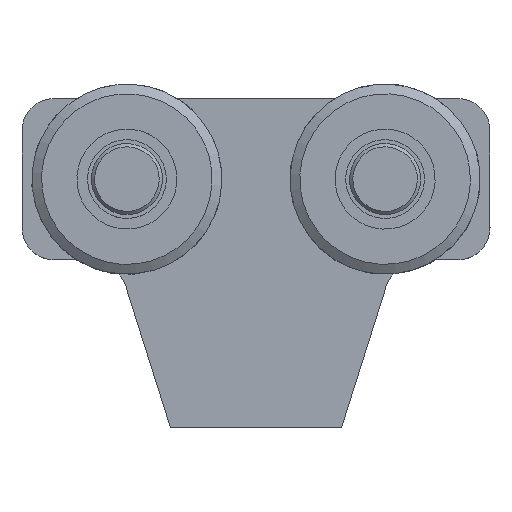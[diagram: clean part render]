
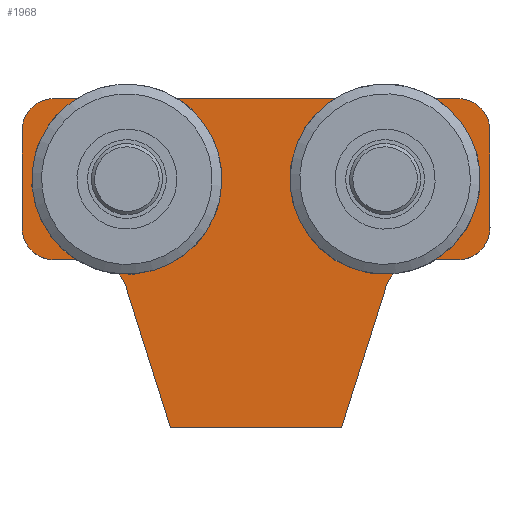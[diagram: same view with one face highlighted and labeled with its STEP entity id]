
A CAD part, top view. The second image highlights one B-rep face of the part: STEP entity #1968.
In plain terms, the highlighted planar face has unit normal (0, 0, 1).
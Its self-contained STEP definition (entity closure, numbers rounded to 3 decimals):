
#200=FACE_BOUND('',#528,.T.);
#201=FACE_BOUND('',#529,.T.);
#260=CIRCLE('',#2064,8.95);
#262=CIRCLE('',#2070,8.95);
#264=CIRCLE('',#2078,8.95);
#266=CIRCLE('',#2084,8.95);
#268=CIRCLE('',#2087,12.);
#270=CIRCLE('',#2091,10.);
#272=CIRCLE('',#2095,10.);
#274=CIRCLE('',#2099,10.);
#276=CIRCLE('',#2103,10.);
#278=CIRCLE('',#2107,12.);
#418=FACE_OUTER_BOUND('',#527,.T.);
#527=EDGE_LOOP('',(#1469,#1470,#1471,#1472,#1473,#1474,#1475,#1476,#1477,
#1478,#1479,#1480,#1481,#1482));
#528=EDGE_LOOP('',(#1483,#1484,#1485,#1486,#1487,#1488,#1489,#1490));
#529=EDGE_LOOP('',(#1491,#1492,#1493,#1494,#1495,#1496,#1497,#1498));
#666=LINE('',#2897,#778);
#671=LINE('',#2911,#783);
#674=LINE('',#2917,#786);
#677=LINE('',#2923,#789);
#681=LINE('',#2935,#793);
#684=LINE('',#2940,#796);
#686=LINE('',#2945,#798);
#690=LINE('',#2953,#802);
#693=LINE('',#2959,#805);
#697=LINE('',#2971,#809);
#700=LINE('',#2977,#812);
#703=LINE('',#2983,#815);
#708=LINE('',#3001,#820);
#712=LINE('',#3013,#824);
#716=LINE('',#3025,#828);
#720=LINE('',#3037,#832);
#724=LINE('',#3049,#836);
#728=LINE('',#3061,#840);
#731=LINE('',#3067,#843);
#734=LINE('',#3072,#846);
#778=VECTOR('',#2305,3.4);
#783=VECTOR('',#2318,3.4);
#786=VECTOR('',#2323,7.2);
#789=VECTOR('',#2328,3.4);
#793=VECTOR('',#2340,3.4);
#796=VECTOR('',#2345,7.2);
#798=VECTOR('',#2349,3.4);
#802=VECTOR('',#2355,7.2);
#805=VECTOR('',#2360,3.4);
#809=VECTOR('',#2372,3.4);
#812=VECTOR('',#2377,7.2);
#815=VECTOR('',#2382,3.4);
#820=VECTOR('',#2401,10.806);
#824=VECTOR('',#2413,30.);
#828=VECTOR('',#2425,125.);
#832=VECTOR('',#2437,30.);
#836=VECTOR('',#2449,10.806);
#840=VECTOR('',#2461,45.725);
#843=VECTOR('',#2466,53.);
#846=VECTOR('',#2471,45.725);
#890=VERTEX_POINT('',#2895);
#891=VERTEX_POINT('',#2896);
#894=VERTEX_POINT('',#2904);
#896=VERTEX_POINT('',#2910);
#898=VERTEX_POINT('',#2916);
#900=VERTEX_POINT('',#2922);
#902=VERTEX_POINT('',#2928);
#904=VERTEX_POINT('',#2934);
#906=VERTEX_POINT('',#2943);
#907=VERTEX_POINT('',#2944);
#910=VERTEX_POINT('',#2952);
#912=VERTEX_POINT('',#2958);
#914=VERTEX_POINT('',#2964);
#916=VERTEX_POINT('',#2970);
#918=VERTEX_POINT('',#2976);
#920=VERTEX_POINT('',#2982);
#922=VERTEX_POINT('',#2991);
#923=VERTEX_POINT('',#2992);
#926=VERTEX_POINT('',#3000);
#928=VERTEX_POINT('',#3006);
#930=VERTEX_POINT('',#3012);
#932=VERTEX_POINT('',#3018);
#934=VERTEX_POINT('',#3024);
#936=VERTEX_POINT('',#3030);
#938=VERTEX_POINT('',#3036);
#940=VERTEX_POINT('',#3042);
#942=VERTEX_POINT('',#3048);
#944=VERTEX_POINT('',#3054);
#946=VERTEX_POINT('',#3060);
#948=VERTEX_POINT('',#3066);
#1082=EDGE_CURVE('',#890,#891,#666,.T.);
#1086=EDGE_CURVE('',#891,#894,#260,.T.);
#1089=EDGE_CURVE('',#894,#896,#671,.T.);
#1092=EDGE_CURVE('',#896,#898,#674,.T.);
#1095=EDGE_CURVE('',#898,#900,#677,.T.);
#1098=EDGE_CURVE('',#900,#902,#262,.T.);
#1101=EDGE_CURVE('',#902,#904,#681,.T.);
#1104=EDGE_CURVE('',#904,#890,#684,.T.);
#1106=EDGE_CURVE('',#906,#907,#686,.T.);
#1110=EDGE_CURVE('',#907,#910,#690,.T.);
#1113=EDGE_CURVE('',#910,#912,#693,.T.);
#1116=EDGE_CURVE('',#912,#914,#264,.T.);
#1119=EDGE_CURVE('',#914,#916,#697,.T.);
#1122=EDGE_CURVE('',#916,#918,#700,.T.);
#1125=EDGE_CURVE('',#918,#920,#703,.T.);
#1128=EDGE_CURVE('',#920,#906,#266,.T.);
#1130=EDGE_CURVE('',#922,#923,#268,.T.);
#1134=EDGE_CURVE('',#923,#926,#708,.T.);
#1137=EDGE_CURVE('',#926,#928,#270,.T.);
#1140=EDGE_CURVE('',#928,#930,#712,.T.);
#1143=EDGE_CURVE('',#930,#932,#272,.T.);
#1146=EDGE_CURVE('',#932,#934,#716,.T.);
#1149=EDGE_CURVE('',#934,#936,#274,.T.);
#1152=EDGE_CURVE('',#936,#938,#720,.T.);
#1155=EDGE_CURVE('',#938,#940,#276,.T.);
#1158=EDGE_CURVE('',#940,#942,#724,.T.);
#1161=EDGE_CURVE('',#942,#944,#278,.T.);
#1164=EDGE_CURVE('',#944,#946,#728,.T.);
#1167=EDGE_CURVE('',#946,#948,#731,.T.);
#1170=EDGE_CURVE('',#948,#922,#734,.T.);
#1469=ORIENTED_EDGE('',*,*,#1130,.F.);
#1470=ORIENTED_EDGE('',*,*,#1170,.F.);
#1471=ORIENTED_EDGE('',*,*,#1167,.F.);
#1472=ORIENTED_EDGE('',*,*,#1164,.F.);
#1473=ORIENTED_EDGE('',*,*,#1161,.F.);
#1474=ORIENTED_EDGE('',*,*,#1158,.F.);
#1475=ORIENTED_EDGE('',*,*,#1155,.F.);
#1476=ORIENTED_EDGE('',*,*,#1152,.F.);
#1477=ORIENTED_EDGE('',*,*,#1149,.F.);
#1478=ORIENTED_EDGE('',*,*,#1146,.F.);
#1479=ORIENTED_EDGE('',*,*,#1143,.F.);
#1480=ORIENTED_EDGE('',*,*,#1140,.F.);
#1481=ORIENTED_EDGE('',*,*,#1137,.F.);
#1482=ORIENTED_EDGE('',*,*,#1134,.F.);
#1483=ORIENTED_EDGE('',*,*,#1082,.T.);
#1484=ORIENTED_EDGE('',*,*,#1086,.T.);
#1485=ORIENTED_EDGE('',*,*,#1089,.T.);
#1486=ORIENTED_EDGE('',*,*,#1092,.T.);
#1487=ORIENTED_EDGE('',*,*,#1095,.T.);
#1488=ORIENTED_EDGE('',*,*,#1098,.T.);
#1489=ORIENTED_EDGE('',*,*,#1101,.T.);
#1490=ORIENTED_EDGE('',*,*,#1104,.T.);
#1491=ORIENTED_EDGE('',*,*,#1106,.T.);
#1492=ORIENTED_EDGE('',*,*,#1110,.T.);
#1493=ORIENTED_EDGE('',*,*,#1113,.T.);
#1494=ORIENTED_EDGE('',*,*,#1116,.T.);
#1495=ORIENTED_EDGE('',*,*,#1119,.T.);
#1496=ORIENTED_EDGE('',*,*,#1122,.T.);
#1497=ORIENTED_EDGE('',*,*,#1125,.T.);
#1498=ORIENTED_EDGE('',*,*,#1128,.T.);
#1903=PLANE('',#2112);
#1968=ADVANCED_FACE('',(#418,#200,#201),#1903,.T.);
#2064=AXIS2_PLACEMENT_3D('',#2905,#2311,#2312);
#2070=AXIS2_PLACEMENT_3D('',#2929,#2333,#2334);
#2078=AXIS2_PLACEMENT_3D('',#2965,#2365,#2366);
#2084=AXIS2_PLACEMENT_3D('',#2988,#2387,#2388);
#2087=AXIS2_PLACEMENT_3D('',#2993,#2393,#2394);
#2091=AXIS2_PLACEMENT_3D('',#3007,#2406,#2407);
#2095=AXIS2_PLACEMENT_3D('',#3019,#2418,#2419);
#2099=AXIS2_PLACEMENT_3D('',#3031,#2430,#2431);
#2103=AXIS2_PLACEMENT_3D('',#3043,#2442,#2443);
#2107=AXIS2_PLACEMENT_3D('',#3055,#2454,#2455);
#2112=AXIS2_PLACEMENT_3D('',#3074,#2473,#2474);
#2305=DIRECTION('',(1.,0.,0.));
#2311=DIRECTION('center_axis',(0.,0.,-1.));
#2312=DIRECTION('ref_axis',(0.922,0.388,0.));
#2318=DIRECTION('',(1.,0.,0.));
#2323=DIRECTION('',(0.,-1.,0.));
#2328=DIRECTION('',(-1.,0.,0.));
#2333=DIRECTION('center_axis',(0.,0.,-1.));
#2334=DIRECTION('ref_axis',(-0.922,-0.388,0.));
#2340=DIRECTION('',(-1.,0.,0.));
#2345=DIRECTION('',(0.,1.,0.));
#2349=DIRECTION('',(1.,0.,0.));
#2355=DIRECTION('',(0.,-1.,0.));
#2360=DIRECTION('',(-1.,0.,0.));
#2365=DIRECTION('center_axis',(0.,0.,-1.));
#2366=DIRECTION('ref_axis',(0.922,0.388,0.));
#2372=DIRECTION('',(-1.,0.,0.));
#2377=DIRECTION('',(0.,1.,0.));
#2382=DIRECTION('',(1.,0.,0.));
#2387=DIRECTION('center_axis',(0.,0.,-1.));
#2388=DIRECTION('ref_axis',(-0.922,-0.388,0.));
#2393=DIRECTION('center_axis',(0.,0.,1.));
#2394=DIRECTION('ref_axis',(-0.954,-0.301,0.));
#2401=DIRECTION('',(1.,0.,0.));
#2406=DIRECTION('center_axis',(0.,0.,-1.));
#2407=DIRECTION('ref_axis',(-1.,0.,0.));
#2413=DIRECTION('',(0.,-1.,0.));
#2418=DIRECTION('center_axis',(0.,0.,-1.));
#2419=DIRECTION('ref_axis',(0.,1.,0.));
#2425=DIRECTION('',(-1.,0.,0.));
#2430=DIRECTION('center_axis',(0.,0.,-1.));
#2431=DIRECTION('ref_axis',(1.,0.,0.));
#2437=DIRECTION('',(0.,1.,0.));
#2442=DIRECTION('center_axis',(0.,0.,-1.));
#2443=DIRECTION('ref_axis',(0.,-1.,0.));
#2449=DIRECTION('',(1.,0.,0.));
#2454=DIRECTION('center_axis',(0.,0.,1.));
#2455=DIRECTION('ref_axis',(0.,-1.,0.));
#2461=DIRECTION('',(0.301,0.954,0.));
#2466=DIRECTION('',(1.,0.,0.));
#2471=DIRECTION('',(0.301,-0.954,0.));
#2473=DIRECTION('center_axis',(0.,0.,1.));
#2474=DIRECTION('ref_axis',(1.,0.,0.));
#2895=CARTESIAN_POINT('',(-51.65,3.6,10.));
#2896=CARTESIAN_POINT('',(-48.25,3.6,10.));
#2897=CARTESIAN_POINT('',(-25.825,3.6,10.));
#2904=CARTESIAN_POINT('',(-31.75,3.6,10.));
#2905=CARTESIAN_POINT('Origin',(-40.,0.13,10.));
#2910=CARTESIAN_POINT('',(-28.35,3.6,10.));
#2911=CARTESIAN_POINT('',(-15.875,3.6,10.));
#2916=CARTESIAN_POINT('',(-28.35,-3.6,10.));
#2917=CARTESIAN_POINT('',(-28.35,10.125,10.));
#2922=CARTESIAN_POINT('',(-31.75,-3.6,10.));
#2923=CARTESIAN_POINT('',(-14.175,-3.6,10.));
#2928=CARTESIAN_POINT('',(-48.25,-3.6,10.));
#2929=CARTESIAN_POINT('Origin',(-40.,-0.13,10.));
#2934=CARTESIAN_POINT('',(-51.65,-3.6,10.));
#2935=CARTESIAN_POINT('',(-24.125,-3.6,10.));
#2940=CARTESIAN_POINT('',(-51.65,6.525,10.));
#2943=CARTESIAN_POINT('',(48.25,3.6,10.));
#2944=CARTESIAN_POINT('',(51.65,3.6,10.));
#2945=CARTESIAN_POINT('',(24.125,3.6,10.));
#2952=CARTESIAN_POINT('',(51.65,-3.6,10.));
#2953=CARTESIAN_POINT('',(51.65,10.125,10.));
#2958=CARTESIAN_POINT('',(48.25,-3.6,10.));
#2959=CARTESIAN_POINT('',(25.825,-3.6,10.));
#2964=CARTESIAN_POINT('',(31.75,-3.6,10.));
#2965=CARTESIAN_POINT('Origin',(40.,-0.13,10.));
#2970=CARTESIAN_POINT('',(28.35,-3.6,10.));
#2971=CARTESIAN_POINT('',(15.875,-3.6,10.));
#2976=CARTESIAN_POINT('',(28.35,3.6,10.));
#2977=CARTESIAN_POINT('',(28.35,6.525,10.));
#2982=CARTESIAN_POINT('',(31.75,3.6,10.));
#2983=CARTESIAN_POINT('',(14.175,3.6,10.));
#2988=CARTESIAN_POINT('Origin',(40.,0.13,10.));
#2991=CARTESIAN_POINT('',(40.25,33.392,10.));
#2992=CARTESIAN_POINT('',(51.694,25.,10.));
#2993=CARTESIAN_POINT('Origin',(51.694,37.,10.));
#3000=CARTESIAN_POINT('',(62.5,25.,10.));
#3001=CARTESIAN_POINT('',(51.694,25.,10.));
#3006=CARTESIAN_POINT('',(72.5,15.,10.));
#3007=CARTESIAN_POINT('Origin',(62.5,15.,10.));
#3012=CARTESIAN_POINT('',(72.5,-15.,10.));
#3013=CARTESIAN_POINT('',(72.5,15.,10.));
#3018=CARTESIAN_POINT('',(62.5,-25.,10.));
#3019=CARTESIAN_POINT('Origin',(62.5,-15.,10.));
#3024=CARTESIAN_POINT('',(-62.5,-25.,10.));
#3025=CARTESIAN_POINT('',(62.5,-25.,10.));
#3030=CARTESIAN_POINT('',(-72.5,-15.,10.));
#3031=CARTESIAN_POINT('Origin',(-62.5,-15.,10.));
#3036=CARTESIAN_POINT('',(-72.5,15.,10.));
#3037=CARTESIAN_POINT('',(-72.5,-15.,10.));
#3042=CARTESIAN_POINT('',(-62.5,25.,10.));
#3043=CARTESIAN_POINT('Origin',(-62.5,15.,10.));
#3048=CARTESIAN_POINT('',(-51.694,25.,10.));
#3049=CARTESIAN_POINT('',(-62.5,25.,10.));
#3054=CARTESIAN_POINT('',(-40.25,33.392,10.));
#3055=CARTESIAN_POINT('Origin',(-51.694,37.,10.));
#3060=CARTESIAN_POINT('',(-26.5,77.,10.));
#3061=CARTESIAN_POINT('',(-40.25,33.392,10.));
#3066=CARTESIAN_POINT('',(26.5,77.,10.));
#3067=CARTESIAN_POINT('',(-26.5,77.,10.));
#3072=CARTESIAN_POINT('',(26.5,77.,10.));
#3074=CARTESIAN_POINT('Origin',(0.,16.649,10.));
